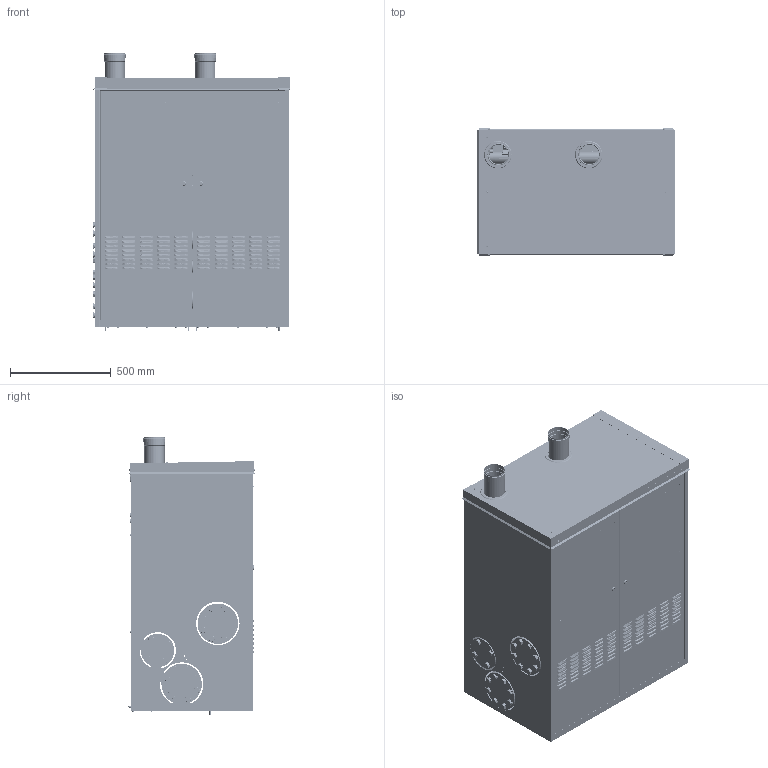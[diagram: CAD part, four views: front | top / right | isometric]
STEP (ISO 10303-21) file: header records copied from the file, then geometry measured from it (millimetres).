
FILE_DESCRIPTION(/* description */ ('Unknown'),/* implementation_level */ '2;1');
FILE_NAME(/* name */ '41011483',/* time_stamp */ '2018-05-28T11:47:23+02:00',/* author */ ('Unknown'),/* organization */ ('Unknown'),/* preprocessor_version */ 'ST-DEVELOPER v16.7',/* originating_system */ 'DEX',/* authorisation */ $);
FILE_SCHEMA (('AUTOMOTIVE_DESIGN {1 0 10303 214 3 1 1}'));
Products named in the file (177): 41011483-00000; 85010242-00001_oa_0; 00212397; 00212388; inserto_M8_H=21_aperto; RON0600C; 16158; DAD0400C; VIM0024; 27673; 00261158; 00220417-00000; 00260425; MOL0600C; VIT0270C; PRN0120C; 00220415-00000; CT17003_10-13; CT17003_10-14; CT17003_10-15; inserto_ESAG_M6_aperto; CT17003_10-16; CT17003_10-17; VIM0044; 00221463; 00221463-00000; 00221463_01; 00221463_491_556_Saldatura d'angolo 4_oa_1; 00221463_491_556_Saldatura d'angolo 4_oa_2; 00221463_491_556_Saldatura d'angolo 4_oa_3; 00221463_491_556_Saldatura d'angolo 4_oa_4; 86010647-00000_oa_5; 00285351-00000; CT17003_13_01_oa_6; CT17003_13_02_oa_7; 24488; 33534; 00285351-00000_363_938_Saldatura d'angolo 11_oa_8; 00285351-00000_363_938_Saldatura d'angolo 11_oa_9; 00213034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
Assembly tree (449 placements, depth 5):
  41011483-00000
    85010242-00001_oa_0
      00212397  x2
      00212388  x2
        00212388
        inserto_M8_H=21_aperto
      RON0600C  x20
      16158  x4
      DAD0400C  x10
      VIM0024  x4
      27673  x2
      00261158  x17
      00220417-00000
      00260425  x17
      MOL0600C  x4
      VIT0270C  x4
      PRN0120C  x2
      00220415-00000
        CT17003_10-13  x2
        CT17003_10-14  x3
        CT17003_10-15  x4
        inserto_ESAG_M6_aperto  x14
        CT17003_10-16  x2
        CT17003_10-17  x2
      VIM0044  x4
      00221463
        00221463-00000
        00221463_01  x2
    86010647-00000_oa_5
      00285351-00000
        CT17003_13_01_oa_6
          CT17003_13_02_oa_7
        24488
        33534  x2
        00213034  x2
        VER0010
        00262634
        00262632_oa_14
        MNT0040-00002  x2
        25662 
      00285353-00000
        CT17003_14_01_oa_19
          CT17003_14_02_oa_20
        24488
        33534  x2
        00213035  x2
        VER0010
        00262634
        00262632_oa_26
        MNT0040-00002
      00285355-00000
        CT17003_15_01
          CT17003_15_02_oa_32
        TRC0239  x2
        00213033  x2
        24486 
        VER0010
        00262635
        00262633_oa_43
        25662 
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Bounding box: 985.1 x 629.97 x 1377 mm (x, y, z)
Volume: 16321891.6 mm3; surface area: 17919829.5 mm2
Topology: 455 solids, 455 shells, 7673 faces, 18925 edges, 12475 vertices
Faces by surface type: plane 4921, cylinder 1543, bspline 429, torus 393, cone 259, sphere 128
Full cylindrical faces by diameter (mm): 2 x18, 2.459 x4, 3 x16, 3.242 x20, 3.5 x20, 3.78 x4, 3.8 x4, 4 x4, 4.134 x16, 4.2 x45, 4.282 x4, 4.5 x4, 4.8 x49, 4.917 x32, 5 x54, 5.3 x30, 5.5 x6, 6 x29, 6.4 x8, 6.5 x18, 6.647 x4, 7 x55, 7.5 x8, 8 x94, 8.2 x8, 8.376 x4, 8.4 x20, 8.5 x62, 8.566 x2, 9 x26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
Entity records: 100889 total; most frequent: CARTESIAN_POINT 32579, DIRECTION 12099, ORIENTED_EDGE 11614, EDGE_CURVE 5807, AXIS2_PLACEMENT_3D 4222, VERTEX_POINT 4074, FACE_BOUND 3859, EDGE_LOOP 3852
